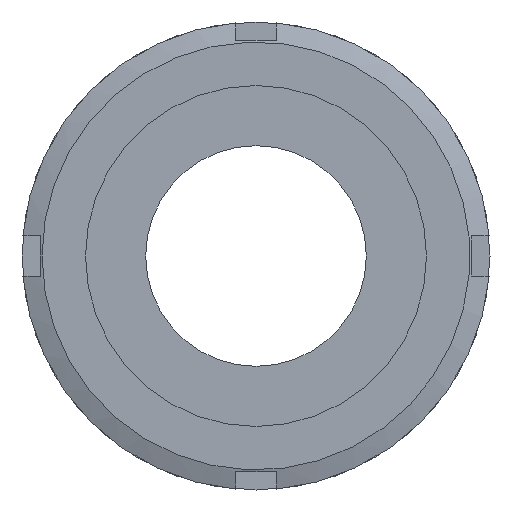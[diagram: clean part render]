
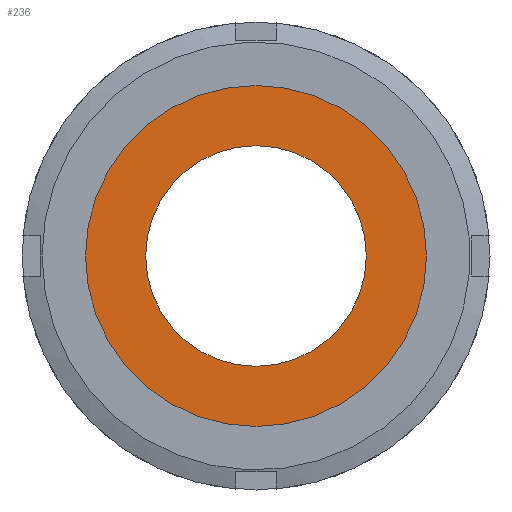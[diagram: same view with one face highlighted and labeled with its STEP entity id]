
A CAD part, left-side view. The second image highlights one B-rep face of the part: STEP entity #236.
In plain terms, the highlighted planar face has unit normal (-1, 0, 0) as drawn and (0, -1, 0) by its records, which use the part's own axes.
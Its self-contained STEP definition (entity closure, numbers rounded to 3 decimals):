
#236 = ADVANCED_FACE( '', ( #342, #343 ), #344, .T. );
#342 = FACE_OUTER_BOUND( '', #497, .T. );
#343 = FACE_BOUND( '', #498, .T. );
#344 = PLANE( '', #499 );
#497 = EDGE_LOOP( '', ( #795 ) );
#498 = EDGE_LOOP( '', ( #796 ) );
#499 = AXIS2_PLACEMENT_3D( '', #797, #798, #799 );
#795 = ORIENTED_EDGE( '', *, *, #1079, .T. );
#796 = ORIENTED_EDGE( '', *, *, #1080, .F. );
#797 = CARTESIAN_POINT( '', ( 16.5, 0., 0. ) );
#798 = DIRECTION( '', ( 0., -1., 0. ) );
#799 = DIRECTION( '', ( 0., 0., -1. ) );
#1079 = EDGE_CURVE( '', #1252, #1252, #1253, .T. );
#1080 = EDGE_CURVE( '', #1254, #1254, #1255, .T. );
#1252 = VERTEX_POINT( '', #1616 );
#1253 = CIRCLE( '', #1617, 25.5 );
#1254 = VERTEX_POINT( '', #1618 );
#1255 = CIRCLE( '', #1619, 16.5 );
#1616 = CARTESIAN_POINT( '', ( 0., 0., -25.5 ) );
#1617 = AXIS2_PLACEMENT_3D( '', #1863, #1864, #1865 );
#1618 = CARTESIAN_POINT( '', ( 0., 0., -16.5 ) );
#1619 = AXIS2_PLACEMENT_3D( '', #1866, #1867, #1868 );
#1863 = CARTESIAN_POINT( '', ( 0., 0., 0. ) );
#1864 = DIRECTION( '', ( 0., -1., 0. ) );
#1865 = DIRECTION( '', ( 0., 0., -1. ) );
#1866 = CARTESIAN_POINT( '', ( 0., 0., 0. ) );
#1867 = DIRECTION( '', ( 0., -1., 0. ) );
#1868 = DIRECTION( '', ( 0., 0., -1. ) );
